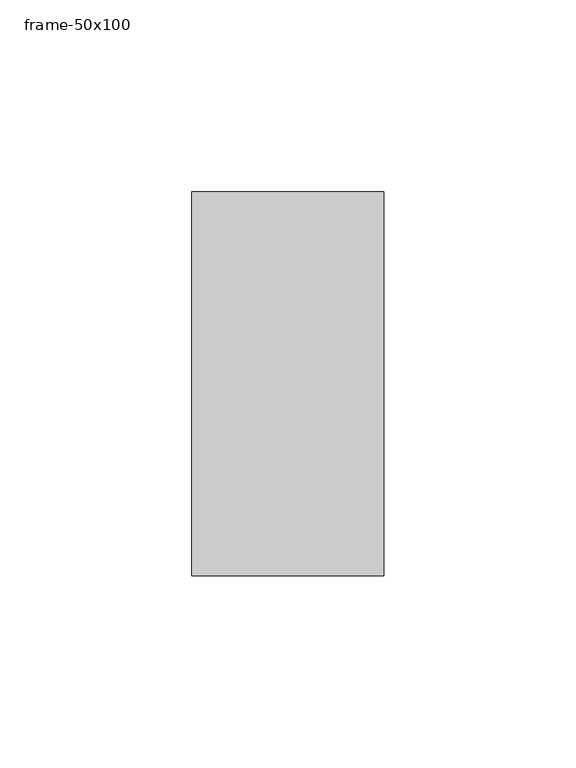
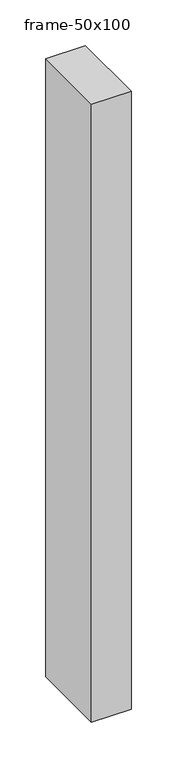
"""IFC4 building model written with IfcOpenShell, lengths in millimetres: member geometry, 長方形マリオン : frame-50x100."""

from ifc_helpers import new_model, si_unit, frame, origin, place, context, project, spatial, polyline, outline, extrude, source, transform, mapped, element, save


def frame_50x100_defbaeaa(model_context):
    return source(origin(), model_context, "Body", "SweptSolid", [
        extrude(outline(polyline([(0.0, 50.0), (0.0, -50.0), (-50.0, -50.0), (-50.0, 50.0), (0.0, 50.0)])), frame((0.0, 0.0, -825.0), z_axis=(0.0, 0.0, 1.0), x_axis=(1.0, 0.0, 0.0)), (0.0, 0.0, 1.0), 825.0),
    ])


if __name__ == "__main__":
    model = new_model("IFC4")
    model_context = context("Model", 3, world=origin())
    ifc_project = project(units=[si_unit("LENGTHUNIT", "METRE", prefix="MILLI")], contexts=[model_context])
    site = spatial("IfcSite", under=ifc_project)
    building = spatial("IfcBuilding", under=site)
    placement = place(None, origin())
    frame_50x100_shape = frame_50x100_defbaeaa(model_context)
    element("IfcMember", 1, ObjectType="長方形マリオン : frame-50x100", at=placement, inside=building, context=model_context, shape_type="MappedRepresentation", body=[
        mapped(frame_50x100_shape, transform((0.0, 0.0, 0.0), x_axis=(1.0, 0.0, 0.0), y_axis=(0.0, 1.0, 0.0), z_axis=(0.0, 0.0, 1.0))),
    ])
    save(model, "model.ifc")
